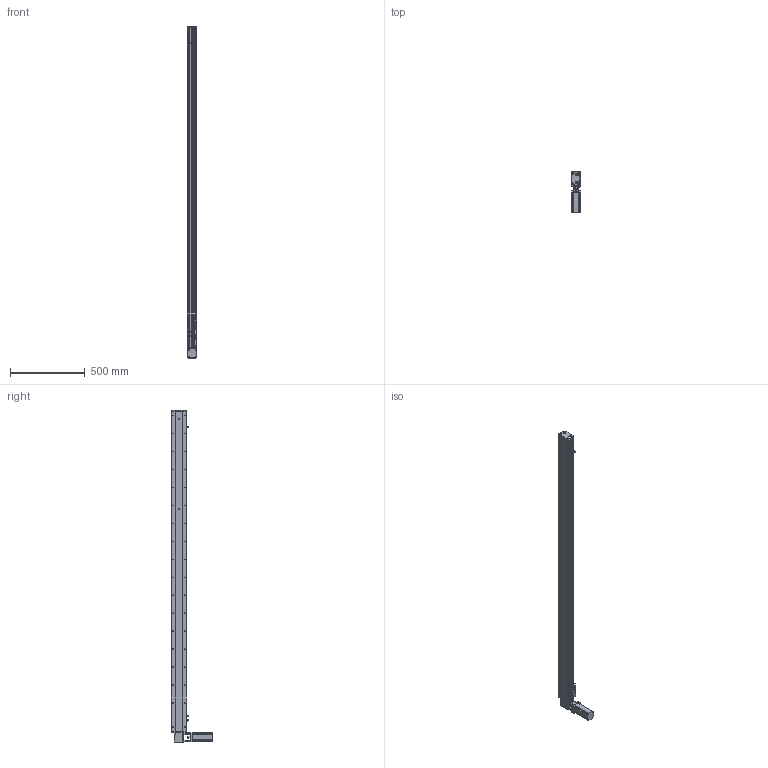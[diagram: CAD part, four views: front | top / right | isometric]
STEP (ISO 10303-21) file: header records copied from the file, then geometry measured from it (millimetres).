
FILE_DESCRIPTION (( 'STEP AP214' ), '1' );
FILE_NAME ('KSD100B-S1950-MLT-CM.STEP', '2019-11-11T05:37:14', ( '微软用户' ), ( '微软中国' ), 'SwSTEP 2.0', 'SolidWorks 2014', '' );
FILE_SCHEMA (( 'AUTOMOTIVE_DESIGN' ));
Length unit declared in the file: millimetre
Products named in the file (12): 100宽安装板同步带带电机座400W,86; 100遵鎮湛假蚾啣1 ; 100宽防尘板1950行程-同步带; U倰嫖萇EEㄜSX672; 覜茼え100遵圉猾敕; 台达ECMA－C20604AS伺服电机; 100宽马达安装板同步带右; 100宽同步带安装板半封闭; 100宽马达安装板同步带; 100遵傷啣肮祭湍; 100宽底板半封闭同步带1950行程; KSD100B-S1950-MLT-CM
Assembly tree (13 placements, depth 2):
  KSD100B-S1950-MLT-CM
    100宽底板半封闭同步带1950行程
    100遵傷啣肮祭湍
    100宽马达安装板同步带
    100宽同步带安装板半封闭
    100宽马达安装板同步带右
    台达ECMA－C20604AS伺服电机
    覜茼え100遵圉猾敕
    U倰嫖萇EEㄜSX672  x3
    100宽防尘板1950行程-同步带
    100遵鎮湛假蚾啣1 
    100宽安装板同步带带电机座400W,86
Bounding box: 61 x 275 x 2215 mm (x, y, z)
Volume: 4500206.9 mm3; surface area: 1530275.2 mm2
Topology: 14 solids, 14 shells, 1728 faces, 4905 edges, 3077 vertices
Faces by surface type: cylinder 918, plane 607, cone 203
Entity records: 63197 total; most frequent: CARTESIAN_POINT 13930, DIRECTION 8597, ORIENTED_EDGE 8310, EDGE_CURVE 4155, AXIS2_PLACEMENT_3D 3194, VERTEX_POINT 2701, LINE 2209, VECTOR 2209
